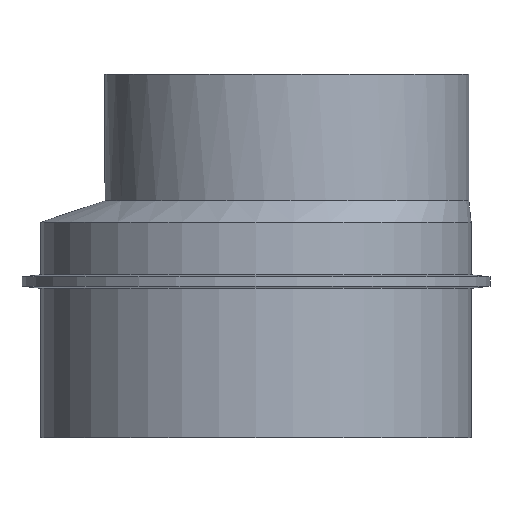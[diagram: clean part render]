
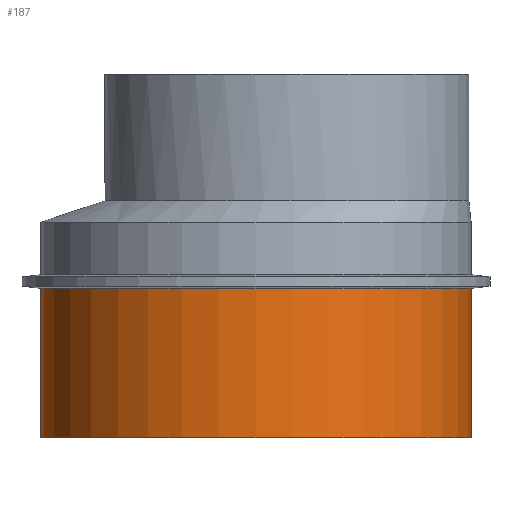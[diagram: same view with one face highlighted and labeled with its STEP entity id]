
A CAD part, front view. The second image highlights one B-rep face of the part: STEP entity #187.
In plain terms, the highlighted cylindrical face has radius 80 mm (diameter 160 mm), a full revolution.
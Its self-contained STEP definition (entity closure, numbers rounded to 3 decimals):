
#26=FACE_BOUND($,#57,.T.);
#40=FACE_OUTER_BOUND($,#56,.T.);
#56=EDGE_LOOP($,(#151));
#57=EDGE_LOOP($,(#152));
#66=CIRCLE($,#198,80.);
#80=CIRCLE($,#217,80.);
#84=VERTEX_POINT($,#287);
#98=VERTEX_POINT($,#360);
#102=EDGE_CURVE($,#84,#84,#66,.T.);
#118=EDGE_CURVE($,#98,#98,#80,.T.);
#151=ORIENTED_EDGE($,*,*,#102,.T.);
#152=ORIENTED_EDGE($,*,*,#118,.F.);
#164=CYLINDRICAL_SURFACE($,#216,80.);
#187=ADVANCED_FACE($,(#40,#26),#164,.T.);
#198=AXIS2_PLACEMENT_3D($,#288,#232,#233);
#216=AXIS2_PLACEMENT_3D($,#359,#268,#269);
#217=AXIS2_PLACEMENT_3D($,#361,#270,#271);
#232=DIRECTION('center_axis',(0.,0.,-1.));
#233=DIRECTION('ref_axis',(-1.,0.,0.));
#268=DIRECTION('center_axis',(0.,0.,1.));
#269=DIRECTION('ref_axis',(-1.,0.,0.));
#270=DIRECTION('center_axis',(0.,0.,-1.));
#271=DIRECTION('ref_axis',(-1.,0.,0.));
#287=CARTESIAN_POINT('',(-80.,0.,55.514));
#288=CARTESIAN_POINT('Origin',(0.,0.,55.514));
#359=CARTESIAN_POINT('Origin',(0.,0.,0.));
#360=CARTESIAN_POINT('',(80.,0.,0.));
#361=CARTESIAN_POINT('Origin',(0.,0.,0.));
